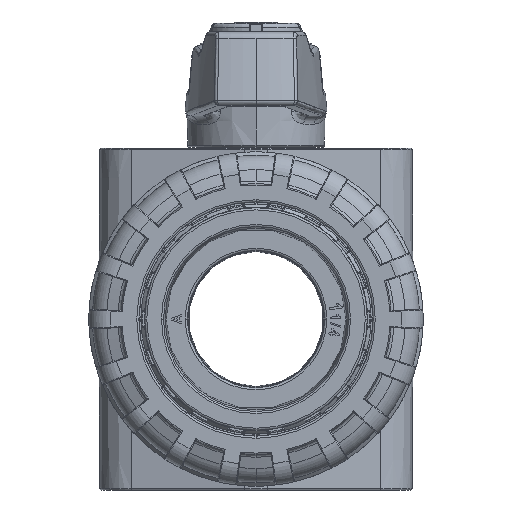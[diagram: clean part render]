
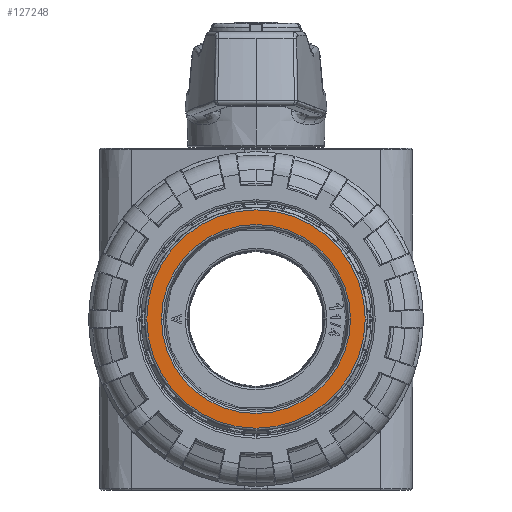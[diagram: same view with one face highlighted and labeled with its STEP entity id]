
A CAD part, left-side view. The second image highlights one B-rep face of the part: STEP entity #127248.
In plain terms, the highlighted planar face has unit normal (-1, 0, 0).
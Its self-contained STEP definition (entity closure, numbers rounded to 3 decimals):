
#120591 = EDGE_CURVE('',#120592,#120594,#120596,.T.);
#120592 = VERTEX_POINT('',#120593);
#120593 = CARTESIAN_POINT('',(-66.052,-10.425,
    -44.679));
#120594 = VERTEX_POINT('',#120595);
#120595 = CARTESIAN_POINT('',(-66.052,-12.167,
    -44.679));
#120596 = SURFACE_CURVE('',#120597,(#120602,#120614),.PCURVE_S1.);
#120597 = CIRCLE('',#120598,0.871);
#120598 = AXIS2_PLACEMENT_3D('',#120599,#120600,#120601);
#120599 = CARTESIAN_POINT('',(-66.052,-11.296,
    -44.679));
#120600 = DIRECTION('',(1.,0.,0.));
#120601 = DIRECTION('',(0.,-1.,0.));
#120602 = PCURVE('',#120603,#120608);
#120603 = TOROIDAL_SURFACE('',#120604,0.871,0.02);
#120604 = AXIS2_PLACEMENT_3D('',#120605,#120606,#120607);
#120605 = CARTESIAN_POINT('',(-66.032,-11.296,
    -44.679));
#120606 = DIRECTION('',(-1.,0.,0.));
#120607 = DIRECTION('',(-0.,-1.,0.));
#120608 = DEFINITIONAL_REPRESENTATION('',(#120609),#120613);
#120609 = LINE('',#120610,#120611);
#120610 = CARTESIAN_POINT('',(6.283,1.571));
#120611 = VECTOR('',#120612,1.);
#120612 = DIRECTION('',(-1.,0.));
#120613 = ( GEOMETRIC_REPRESENTATION_CONTEXT(2) 
PARAMETRIC_REPRESENTATION_CONTEXT() REPRESENTATION_CONTEXT('2D SPACE',''
  ) );
#120614 = PCURVE('',#120615,#120620);
#120615 = PLANE('',#120616);
#120616 = AXIS2_PLACEMENT_3D('',#120617,#120618,#120619);
#120617 = CARTESIAN_POINT('',(-66.052,-11.296,
    -43.842));
#120618 = DIRECTION('',(-1.,0.,0.));
#120619 = DIRECTION('',(-0.,-1.,0.));
#120620 = DEFINITIONAL_REPRESENTATION('',(#120621),#120629);
#120621 = ( BOUNDED_CURVE() B_SPLINE_CURVE(2,(#120622,#120623,#120624,
    #120625,#120626,#120627,#120628),.UNSPECIFIED.,.T.,.F.) 
B_SPLINE_CURVE_WITH_KNOTS((1,2,2,2,2,1),(-2.094,0.,
    2.094,4.189,6.283,8.378),
.UNSPECIFIED.) CURVE() GEOMETRIC_REPRESENTATION_ITEM() 
RATIONAL_B_SPLINE_CURVE((1.,0.5,1.,0.5,1.,0.5,1.)) REPRESENTATION_ITEM(
  '') );
#120622 = CARTESIAN_POINT('',(0.871,-0.837));
#120623 = CARTESIAN_POINT('',(0.871,-2.346));
#120624 = CARTESIAN_POINT('',(-0.436,-1.592));
#120625 = CARTESIAN_POINT('',(-1.742,-0.837));
#120626 = CARTESIAN_POINT('',(-0.436,-0.083));
#120627 = CARTESIAN_POINT('',(0.871,0.671));
#120628 = CARTESIAN_POINT('',(0.871,-0.837));
#120629 = ( GEOMETRIC_REPRESENTATION_CONTEXT(2) 
PARAMETRIC_REPRESENTATION_CONTEXT() REPRESENTATION_CONTEXT('2D SPACE',''
  ) );
#120648 = TOROIDAL_SURFACE('',#120649,0.871,0.02);
#120649 = AXIS2_PLACEMENT_3D('',#120650,#120651,#120652);
#120650 = CARTESIAN_POINT('',(-66.032,-11.296,
    -44.679));
#120651 = DIRECTION('',(-1.,0.,0.));
#120652 = DIRECTION('',(-0.,-1.,0.));
#120726 = TOROIDAL_SURFACE('',#120727,1.007,0.02);
#120727 = AXIS2_PLACEMENT_3D('',#120728,#120729,#120730);
#120728 = CARTESIAN_POINT('',(-66.032,-11.296,
    -44.679));
#120729 = DIRECTION('',(-1.,0.,0.));
#120730 = DIRECTION('',(-0.,-1.,0.));
#120751 = VERTEX_POINT('',#120752);
#120752 = CARTESIAN_POINT('',(-66.052,-10.29,
    -44.679));
#120767 = TOROIDAL_SURFACE('',#120768,1.007,0.02);
#120768 = AXIS2_PLACEMENT_3D('',#120769,#120770,#120771);
#120769 = CARTESIAN_POINT('',(-66.032,-11.296,
    -44.679));
#120770 = DIRECTION('',(-1.,0.,0.));
#120771 = DIRECTION('',(-0.,-1.,0.));
#120779 = EDGE_CURVE('',#120780,#120751,#120782,.T.);
#120780 = VERTEX_POINT('',#120781);
#120781 = CARTESIAN_POINT('',(-66.052,-12.303,
    -44.679));
#120782 = SURFACE_CURVE('',#120783,(#120788,#120795),.PCURVE_S1.);
#120783 = CIRCLE('',#120784,1.007);
#120784 = AXIS2_PLACEMENT_3D('',#120785,#120786,#120787);
#120785 = CARTESIAN_POINT('',(-66.052,-11.296,
    -44.679));
#120786 = DIRECTION('',(-1.,0.,0.));
#120787 = DIRECTION('',(-0.,-1.,0.));
#120788 = PCURVE('',#120726,#120789);
#120789 = DEFINITIONAL_REPRESENTATION('',(#120790),#120794);
#120790 = LINE('',#120791,#120792);
#120791 = CARTESIAN_POINT('',(0.,1.571));
#120792 = VECTOR('',#120793,1.);
#120793 = DIRECTION('',(1.,0.));
#120794 = ( GEOMETRIC_REPRESENTATION_CONTEXT(2) 
PARAMETRIC_REPRESENTATION_CONTEXT() REPRESENTATION_CONTEXT('2D SPACE',''
  ) );
#120795 = PCURVE('',#120615,#120796);
#120796 = DEFINITIONAL_REPRESENTATION('',(#120797),#120801);
#120797 = CIRCLE('',#120798,1.007);
#120798 = AXIS2_PLACEMENT_2D('',#120799,#120800);
#120799 = CARTESIAN_POINT('',(0.,-0.837));
#120800 = DIRECTION('',(1.,0.));
#120801 = ( GEOMETRIC_REPRESENTATION_CONTEXT(2) 
PARAMETRIC_REPRESENTATION_CONTEXT() REPRESENTATION_CONTEXT('2D SPACE',''
  ) );
#127248 = ADVANCED_FACE('',(#127249,#127278),#120615,.T.);
#127249 = FACE_BOUND('',#127250,.T.);
#127250 = EDGE_LOOP('',(#127251,#127277));
#127251 = ORIENTED_EDGE('',*,*,#127252,.T.);
#127252 = EDGE_CURVE('',#120594,#120592,#127253,.T.);
#127253 = SURFACE_CURVE('',#127254,(#127259,#127270),.PCURVE_S1.);
#127254 = CIRCLE('',#127255,0.871);
#127255 = AXIS2_PLACEMENT_3D('',#127256,#127257,#127258);
#127256 = CARTESIAN_POINT('',(-66.052,-11.296,
    -44.679));
#127257 = DIRECTION('',(1.,0.,0.));
#127258 = DIRECTION('',(0.,-1.,0.));
#127259 = PCURVE('',#120615,#127260);
#127260 = DEFINITIONAL_REPRESENTATION('',(#127261),#127269);
#127261 = ( BOUNDED_CURVE() B_SPLINE_CURVE(2,(#127262,#127263,#127264,
    #127265,#127266,#127267,#127268),.UNSPECIFIED.,.T.,.F.) 
B_SPLINE_CURVE_WITH_KNOTS((1,2,2,2,2,1),(-2.094,0.,
    2.094,4.189,6.283,8.378),
.UNSPECIFIED.) CURVE() GEOMETRIC_REPRESENTATION_ITEM() 
RATIONAL_B_SPLINE_CURVE((1.,0.5,1.,0.5,1.,0.5,1.)) REPRESENTATION_ITEM(
  '') );
#127262 = CARTESIAN_POINT('',(0.871,-0.837));
#127263 = CARTESIAN_POINT('',(0.871,-2.346));
#127264 = CARTESIAN_POINT('',(-0.436,-1.592));
#127265 = CARTESIAN_POINT('',(-1.742,-0.837));
#127266 = CARTESIAN_POINT('',(-0.436,-0.083));
#127267 = CARTESIAN_POINT('',(0.871,0.671));
#127268 = CARTESIAN_POINT('',(0.871,-0.837));
#127269 = ( GEOMETRIC_REPRESENTATION_CONTEXT(2) 
PARAMETRIC_REPRESENTATION_CONTEXT() REPRESENTATION_CONTEXT('2D SPACE',''
  ) );
#127270 = PCURVE('',#120648,#127271);
#127271 = DEFINITIONAL_REPRESENTATION('',(#127272),#127276);
#127272 = LINE('',#127273,#127274);
#127273 = CARTESIAN_POINT('',(6.283,1.571));
#127274 = VECTOR('',#127275,1.);
#127275 = DIRECTION('',(-1.,0.));
#127276 = ( GEOMETRIC_REPRESENTATION_CONTEXT(2) 
PARAMETRIC_REPRESENTATION_CONTEXT() REPRESENTATION_CONTEXT('2D SPACE',''
  ) );
#127277 = ORIENTED_EDGE('',*,*,#120591,.T.);
#127278 = FACE_BOUND('',#127279,.T.);
#127279 = EDGE_LOOP('',(#127280,#127281));
#127280 = ORIENTED_EDGE('',*,*,#120779,.T.);
#127281 = ORIENTED_EDGE('',*,*,#127282,.T.);
#127282 = EDGE_CURVE('',#120751,#120780,#127283,.T.);
#127283 = SURFACE_CURVE('',#127284,(#127289,#127296),.PCURVE_S1.);
#127284 = CIRCLE('',#127285,1.007);
#127285 = AXIS2_PLACEMENT_3D('',#127286,#127287,#127288);
#127286 = CARTESIAN_POINT('',(-66.052,-11.296,
    -44.679));
#127287 = DIRECTION('',(-1.,0.,0.));
#127288 = DIRECTION('',(-0.,-1.,0.));
#127289 = PCURVE('',#120615,#127290);
#127290 = DEFINITIONAL_REPRESENTATION('',(#127291),#127295);
#127291 = CIRCLE('',#127292,1.007);
#127292 = AXIS2_PLACEMENT_2D('',#127293,#127294);
#127293 = CARTESIAN_POINT('',(0.,-0.837));
#127294 = DIRECTION('',(1.,0.));
#127295 = ( GEOMETRIC_REPRESENTATION_CONTEXT(2) 
PARAMETRIC_REPRESENTATION_CONTEXT() REPRESENTATION_CONTEXT('2D SPACE',''
  ) );
#127296 = PCURVE('',#120767,#127297);
#127297 = DEFINITIONAL_REPRESENTATION('',(#127298),#127302);
#127298 = LINE('',#127299,#127300);
#127299 = CARTESIAN_POINT('',(0.,1.571));
#127300 = VECTOR('',#127301,1.);
#127301 = DIRECTION('',(1.,0.));
#127302 = ( GEOMETRIC_REPRESENTATION_CONTEXT(2) 
PARAMETRIC_REPRESENTATION_CONTEXT() REPRESENTATION_CONTEXT('2D SPACE',''
  ) );
